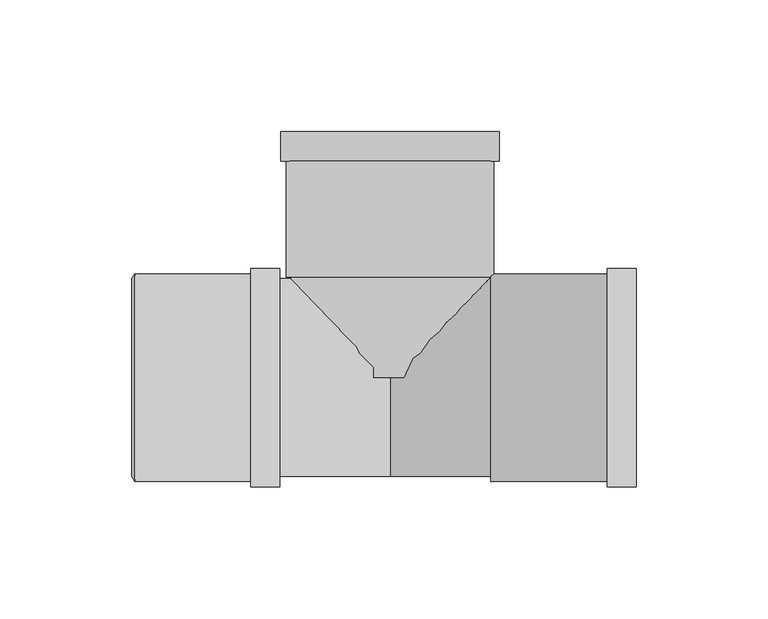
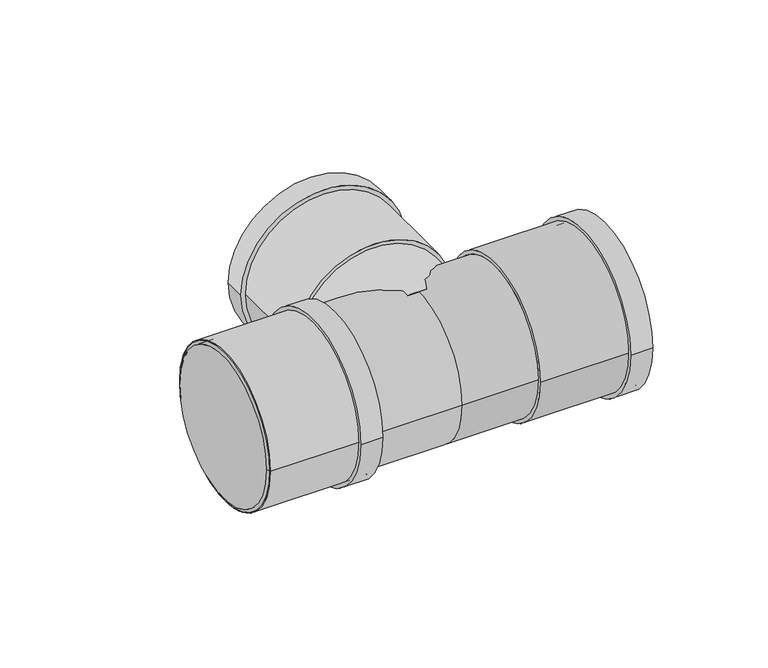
"""IFC4 building model written with IfcOpenShell, lengths in millimetres: pipe fitting geometry, Superdrain HTEA Branch : Superdrain HTEA Branch."""

from ifc_helpers import new_model, si_unit, point, frame, origin, origin_2d, place, context, project, spatial, polyline, circle_curve, trimmed, segment, composite_curve, outline, extrude, source, transform, mapped, element, save
from ifc_brep_helpers import plane_surface, revolved_surface, advanced_brep


def pipe_fitting_6d47b2a5(model_context):
    return source(origin(), model_context, "Body", "SolidModel", [
        extrude(outline(composite_curve([segment(trimmed(circle_curve(origin_2d(), 39.375), [point((39.375, 0.0))], [point((-39.375, 0.0))], False, "CARTESIAN"), True, "CONTINUOUS"), segment(trimmed(circle_curve(origin_2d(), 39.375), [point((-39.375, 0.0))], [point((39.375, 0.0))], False, "CARTESIAN"), True, "CONTINUOUS")], self_intersect=False), holes=[composite_curve([segment(trimmed(circle_curve(origin_2d(), 37.5), [point((37.5, 0.0))], [point((-37.5, 0.0))], True, "CARTESIAN"), True, "CONTINUOUS"), segment(trimmed(circle_curve(origin_2d(), 37.5), [point((-37.5, 0.0))], [point((37.5, 0.0))], True, "CARTESIAN"), True, "CONTINUOUS")], self_intersect=False)]), frame((-96.8, 0.0, 0.0), z_axis=(1.0, 0.0, 0.0), x_axis=(0.0, 1.0, 0.0)), (0.0, 0.0, 1.0), 55.0),
        extrude(outline(composite_curve([segment(trimmed(circle_curve(origin_2d(), 41.34375), [point((41.34375, 0.0))], [point((-41.34375, 0.0))], False, "CARTESIAN"), True, "CONTINUOUS"), segment(trimmed(circle_curve(origin_2d(), 41.34375), [point((-41.34375, 0.0))], [point((41.34375, 0.0))], False, "CARTESIAN"), True, "CONTINUOUS")], self_intersect=False), holes=[composite_curve([segment(trimmed(circle_curve(origin_2d(), 37.5), [point((37.5, 0.0))], [point((-37.5, 0.0))], True, "CARTESIAN"), True, "CONTINUOUS"), segment(trimmed(circle_curve(origin_2d(), 37.5), [point((-37.5, 0.0))], [point((37.5, 0.0))], True, "CARTESIAN"), True, "CONTINUOUS")], self_intersect=False)]), frame((-52.8, 0.0, 0.0), z_axis=(1.0, 0.0, 0.0), x_axis=(0.0, 1.0, 0.0)), (0.0, 0.0, 1.0), 11.0),
        advanced_brep(
        [(-97.8, 37.5, 0.0), (-97.8, -37.5, 0.0), (-96.8, 39.375, 0.0), (-96.8, -39.375, 0.0)],
        [
            (0, 1, circle_curve(frame((-97.8, 0.0, 0.0), z_axis=(-1.0, 0.0, 0.0), x_axis=(0.0, 1.0, 0.0)), 37.5)),
            (1, 0, circle_curve(frame((-97.8, 0.0, 0.0), z_axis=(-1.0, 0.0, 0.0), x_axis=(0.0, -1.0, 0.0)), 37.5)),
            (2, 3, circle_curve(frame((-96.8, 0.0, 0.0), z_axis=(1.0, 0.0, 0.0), x_axis=(0.0, -1.0, 0.0)), 39.375)),
            (3, 2, circle_curve(frame((-96.8, 0.0, 0.0), z_axis=(1.0, 0.0, 0.0), x_axis=(0.0, 1.0, 0.0)), 39.375)),
            (3, 1),
            (0, 2),
        ],
        [
            plane_surface(frame((-97.8, 0.0, 0.0), z_axis=(-1.0, 0.0, 0.0), x_axis=(0.0, 0.0, -1.0))),
            plane_surface(frame((-96.8, 0.0, 0.0), z_axis=(1.0, 0.0, 0.0), x_axis=(0.0, 0.0, -1.0))),
            revolved_surface(polyline([(-97.8, 37.5, 0.0), (-96.8, 39.375, 0.0)]), (-117.8, 0.0, 0.0), (1.0, 0.0, 0.0)),
            revolved_surface(polyline([(-97.8, -37.5, 0.0), (-96.8, -39.375, 0.0)]), (-117.8, 0.0, 0.0), (1.0, 0.0, 0.0)),
        ],
        [
            (0, [[1, 2]]),
            (1, [[3, 4]]),
            (2, [[-4, 5, -1, 6]]),
            (3, [[-3, -6, -2, -5]]),
        ],
    ),
        extrude(outline(composite_curve([segment(trimmed(circle_curve(origin_2d(), 39.375), [point((-39.375, 0.0))], [point((39.375, 0.0))], False, "CARTESIAN"), True, "CONTINUOUS"), segment(trimmed(circle_curve(origin_2d(), 39.375), [point((39.375, 0.0))], [point((-39.375, 0.0))], False, "CARTESIAN"), True, "CONTINUOUS")], self_intersect=False), holes=[composite_curve([segment(trimmed(circle_curve(origin_2d(), 37.5), [point((37.5, 0.0))], [point((-37.5, 0.0))], True, "CARTESIAN"), True, "CONTINUOUS"), segment(trimmed(circle_curve(origin_2d(), 37.5), [point((-37.5, 0.0))], [point((37.5, 0.0))], True, "CARTESIAN"), True, "CONTINUOUS")], self_intersect=False)]), frame((38.2, 0.0, 0.0), z_axis=(1.0, 0.0, 0.0), x_axis=(0.0, 1.0, 0.0)), (0.0, 0.0, 1.0), 55.0),
        extrude(outline(composite_curve([segment(trimmed(circle_curve(origin_2d(), 41.34375), [point((41.34375, 0.0))], [point((-41.34375, 0.0))], False, "CARTESIAN"), True, "CONTINUOUS"), segment(trimmed(circle_curve(origin_2d(), 41.34375), [point((-41.34375, 0.0))], [point((41.34375, 0.0))], False, "CARTESIAN"), True, "CONTINUOUS")], self_intersect=False), holes=[composite_curve([segment(trimmed(circle_curve(origin_2d(), 37.5), [point((37.5, 0.0))], [point((-37.5, 0.0))], True, "CARTESIAN"), True, "CONTINUOUS"), segment(trimmed(circle_curve(origin_2d(), 37.5), [point((-37.5, 0.0))], [point((37.5, 0.0))], True, "CARTESIAN"), True, "CONTINUOUS")], self_intersect=False)]), frame((82.2, 0.0, 0.0), z_axis=(1.0, 0.0, 0.0), x_axis=(0.0, 1.0, 0.0)), (0.0, 0.0, 1.0), 11.0),
        extrude(outline(composite_curve([segment(trimmed(circle_curve(origin_2d(), 37.5), [point((0.0, 37.5))], [point((0.0, -37.5))], False, "CARTESIAN"), True, "CONTINUOUS"), segment(trimmed(circle_curve(origin_2d(), 37.5), [point((0.0, -37.5))], [point((0.0, 37.5))], False, "CARTESIAN"), True, "CONTINUOUS")], self_intersect=False)), frame((0.0, 0.0, 0.0), z_axis=(0.0, 1.0, 0.0), x_axis=(0.0, 0.0, 1.0)), (0.0, 0.0, 1.0), 38.2),
        extrude(outline(composite_curve([segment(trimmed(circle_curve(origin_2d(), 37.5), [point((37.5, 0.0))], [point((-37.5, 0.0))], False, "CARTESIAN"), True, "CONTINUOUS"), segment(trimmed(circle_curve(origin_2d(), 37.5), [point((-37.5, 0.0))], [point((37.5, 0.0))], False, "CARTESIAN"), True, "CONTINUOUS")], self_intersect=False)), frame((-96.8, 0.0, 0.0), z_axis=(1.0, 0.0, 0.0), x_axis=(0.0, 1.0, 0.0)), (0.0, 0.0, 1.0), 96.8),
        extrude(outline(composite_curve([segment(trimmed(circle_curve(origin_2d(), 37.5), [point((-37.5, 0.0))], [point((37.5, 0.0))], False, "CARTESIAN"), True, "CONTINUOUS"), segment(trimmed(circle_curve(origin_2d(), 37.5), [point((37.5, 0.0))], [point((-37.5, 0.0))], False, "CARTESIAN"), True, "CONTINUOUS")], self_intersect=False)), frame((0.0, 0.0, 0.0), z_axis=(1.0, 0.0, 0.0), x_axis=(0.0, 1.0, 0.0)), (0.0, 0.0, 1.0), 38.2),
        extrude(outline(composite_curve([segment(trimmed(circle_curve(origin_2d(), 41.34375), [point((0.0, 41.34375))], [point((0.0, -41.34375))], False, "CARTESIAN"), True, "CONTINUOUS"), segment(trimmed(circle_curve(origin_2d(), 41.34375), [point((0.0, -41.34375))], [point((0.0, 41.34375))], False, "CARTESIAN"), True, "CONTINUOUS")], self_intersect=False), holes=[composite_curve([segment(trimmed(circle_curve(origin_2d(), 37.5), [point((0.0, 37.5))], [point((0.0, -37.5))], True, "CARTESIAN"), True, "CONTINUOUS"), segment(trimmed(circle_curve(origin_2d(), 37.5), [point((0.0, -37.5))], [point((0.0, 37.5))], True, "CARTESIAN"), True, "CONTINUOUS")], self_intersect=False)]), frame((0.0, 82.2, 0.0), z_axis=(0.0, 1.0, 0.0), x_axis=(0.0, 0.0, 1.0)), (0.0, 0.0, 1.0), 11.0),
        extrude(outline(composite_curve([segment(trimmed(circle_curve(origin_2d(), 39.375), [point((0.0, 39.375))], [point((0.0, -39.375))], False, "CARTESIAN"), True, "CONTINUOUS"), segment(trimmed(circle_curve(origin_2d(), 39.375), [point((0.0, -39.375))], [point((0.0, 39.375))], False, "CARTESIAN"), True, "CONTINUOUS")], self_intersect=False), holes=[composite_curve([segment(trimmed(circle_curve(origin_2d(), 37.5), [point((0.0, 37.5))], [point((0.0, -37.5))], True, "CARTESIAN"), True, "CONTINUOUS"), segment(trimmed(circle_curve(origin_2d(), 37.5), [point((0.0, -37.5))], [point((0.0, 37.5))], True, "CARTESIAN"), True, "CONTINUOUS")], self_intersect=False)]), frame((0.0, 38.2, 0.0), z_axis=(0.0, 1.0, 0.0), x_axis=(0.0, 0.0, 1.0)), (0.0, 0.0, 1.0), 55.0),
    ])


if __name__ == "__main__":
    model = new_model("IFC4")
    model_context = context("Model", 3, world=origin())
    ifc_project = project(units=[si_unit("LENGTHUNIT", "METRE", prefix="MILLI")], contexts=[model_context])
    site = spatial("IfcSite", under=ifc_project)
    building = spatial("IfcBuilding", under=site)
    placement = place(None, origin())
    pipe_fitting_shape = pipe_fitting_6d47b2a5(model_context)
    element("IfcPipeFitting", 1, ObjectType="Superdrain HTEA Branch : Superdrain HTEA Branch", at=placement, inside=building, context=model_context, shape_type="MappedRepresentation", body=[
        mapped(pipe_fitting_shape, transform((0.0, 0.0, 0.0), x_axis=(1.0, 0.0, 0.0), y_axis=(0.0, 1.0, 0.0), z_axis=(0.0, 0.0, 1.0))),
    ])
    save(model, "model.ifc")
